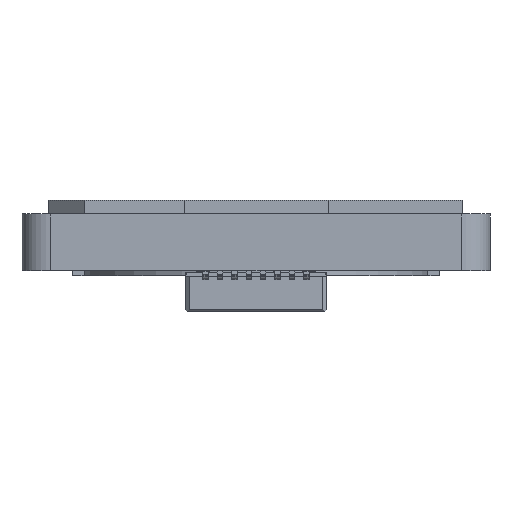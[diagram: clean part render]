
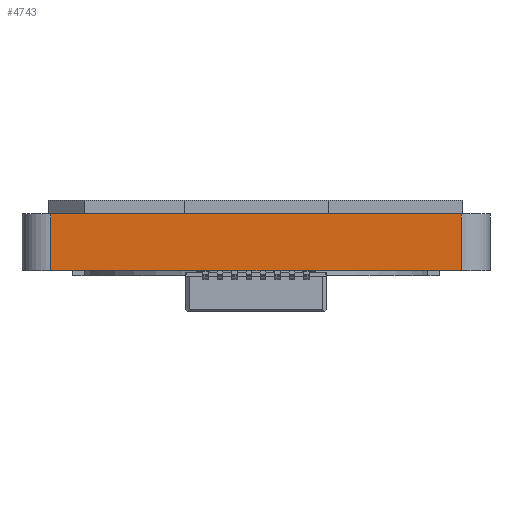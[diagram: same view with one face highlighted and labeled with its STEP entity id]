
A CAD part, front view. The second image highlights one B-rep face of the part: STEP entity #4743.
In plain terms, the highlighted planar face has unit normal (0, -1, 0).
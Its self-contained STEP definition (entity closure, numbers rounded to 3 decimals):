
#14 = PLANE ( 'NONE',  #7023 ) ;
#338 = EDGE_CURVE ( 'NONE', #10039, #4529, #1964, .T. ) ;
#819 = CARTESIAN_POINT ( 'NONE',  ( -15.749, -3.015, 0. ) ) ;
#1964 = LINE ( 'NONE', #3839, #4807 ) ;
#2166 = LINE ( 'NONE', #11964, #8723 ) ;
#2914 = CARTESIAN_POINT ( 'NONE',  ( -27.149, -3.015, 1.575 ) ) ;
#3004 = ORIENTED_EDGE ( 'NONE', *, *, #10122, .F. ) ;
#3093 = DIRECTION ( 'NONE',  ( 0., 0., -1. ) ) ;
#3733 = CARTESIAN_POINT ( 'NONE',  ( -27.149, -3.015, 1.575 ) ) ;
#3839 = CARTESIAN_POINT ( 'NONE',  ( -27.149, -3.015, 1.575 ) ) ;
#4529 = VERTEX_POINT ( 'NONE', #6597 ) ;
#4743 = ADVANCED_FACE ( 'NONE', ( #5956 ), #14, .F. ) ;
#4807 = VECTOR ( 'NONE', #11577, 1000. ) ;
#5087 = VERTEX_POINT ( 'NONE', #819 ) ;
#5342 = EDGE_CURVE ( 'NONE', #10039, #11180, #6615, .T. ) ;
#5912 = CARTESIAN_POINT ( 'NONE',  ( -15.749, -3.015, 1.575 ) ) ;
#5956 = FACE_OUTER_BOUND ( 'NONE', #11154, .T. ) ;
#6597 = CARTESIAN_POINT ( 'NONE',  ( -27.149, -3.015, 0. ) ) ;
#6615 = LINE ( 'NONE', #2914, #7060 ) ;
#6873 = LINE ( 'NONE', #5912, #8715 ) ;
#6925 = DIRECTION ( 'NONE',  ( -1., 0., 0. ) ) ;
#7023 = AXIS2_PLACEMENT_3D ( 'NONE', #7894, #11791, #6925 ) ;
#7060 = VECTOR ( 'NONE', #10510, 1000. ) ;
#7789 = EDGE_CURVE ( 'NONE', #4529, #5087, #2166, .T. ) ;
#7894 = CARTESIAN_POINT ( 'NONE',  ( -27.149, -3.015, 1.575 ) ) ;
#8433 = CARTESIAN_POINT ( 'NONE',  ( -15.749, -3.015, 1.575 ) ) ;
#8715 = VECTOR ( 'NONE', #3093, 1000. ) ;
#8723 = VECTOR ( 'NONE', #11370, 1000. ) ;
#10039 = VERTEX_POINT ( 'NONE', #3733 ) ;
#10104 = ORIENTED_EDGE ( 'NONE', *, *, #5342, .F. ) ;
#10122 = EDGE_CURVE ( 'NONE', #11180, #5087, #6873, .T. ) ;
#10495 = ORIENTED_EDGE ( 'NONE', *, *, #338, .T. ) ;
#10510 = DIRECTION ( 'NONE',  ( 1., 0., 0. ) ) ;
#10906 = ORIENTED_EDGE ( 'NONE', *, *, #7789, .T. ) ;
#11154 = EDGE_LOOP ( 'NONE', ( #10906, #3004, #10104, #10495 ) ) ;
#11180 = VERTEX_POINT ( 'NONE', #8433 ) ;
#11370 = DIRECTION ( 'NONE',  ( 1., 0., 0. ) ) ;
#11577 = DIRECTION ( 'NONE',  ( 0., 0., -1. ) ) ;
#11791 = DIRECTION ( 'NONE',  ( 0., 1., 0. ) ) ;
#11964 = CARTESIAN_POINT ( 'NONE',  ( -27.149, -3.015, 0. ) ) ;
